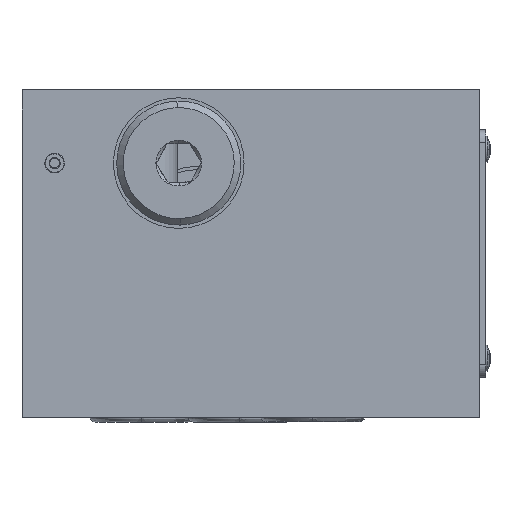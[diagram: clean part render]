
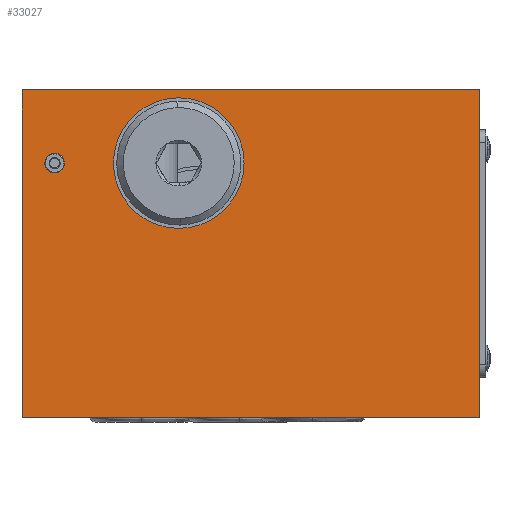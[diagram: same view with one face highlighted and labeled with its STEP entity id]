
A CAD part, left-side view. The second image highlights one B-rep face of the part: STEP entity #33027.
In plain terms, the highlighted planar face has unit normal (-1, 0, 0).
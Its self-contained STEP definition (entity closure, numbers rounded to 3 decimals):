
#93 = FACE_BOUND ( 'NONE', #14853, .T. ) ;
#2313 = DIRECTION ( 'NONE',  ( -1., 0., 0. ) ) ;
#3163 = DIRECTION ( 'NONE',  ( 0., 0., -1. ) ) ;
#3511 = ORIENTED_EDGE ( 'NONE', *, *, #22963, .F. ) ;
#6114 = ORIENTED_EDGE ( 'NONE', *, *, #53754, .T. ) ;
#6128 = EDGE_CURVE ( 'NONE', #33354, #35596, #41870, .T. ) ;
#6539 = DIRECTION ( 'NONE',  ( 0., 1., 0. ) ) ;
#7330 = CARTESIAN_POINT ( 'NONE',  ( -42.5, 23., 18.9 ) ) ;
#9509 = VECTOR ( 'NONE', #3163, 1000. ) ;
#9948 = PLANE ( 'NONE',  #36318 ) ;
#10133 = AXIS2_PLACEMENT_3D ( 'NONE', #13521, #17386, #22548 ) ;
#12749 = CARTESIAN_POINT ( 'NONE',  ( -42.5, -42., 28.6 ) ) ;
#13521 = CARTESIAN_POINT ( 'NONE',  ( -42.5, 23., 17.4 ) ) ;
#13771 = FACE_OUTER_BOUND ( 'NONE', #22228, .T. ) ;
#14471 = EDGE_CURVE ( 'NONE', #33215, #31039, #28952, .T. ) ;
#14853 = EDGE_LOOP ( 'NONE', ( #43971, #42836 ) ) ;
#15219 = FACE_BOUND ( 'NONE', #33749, .T. ) ;
#15768 = CARTESIAN_POINT ( 'NONE',  ( -42.5, 28., 28.6 ) ) ;
#16066 = VECTOR ( 'NONE', #17462, 1000. ) ;
#17041 = AXIS2_PLACEMENT_3D ( 'NONE', #36815, #41080, #27945 ) ;
#17386 = DIRECTION ( 'NONE',  ( -1., 0., 0. ) ) ;
#17419 = VECTOR ( 'NONE', #55978, 1000. ) ;
#17462 = DIRECTION ( 'NONE',  ( 0., 1., 0. ) ) ;
#17492 = DIRECTION ( 'NONE',  ( 0., 0., -1. ) ) ;
#20368 = LINE ( 'NONE', #21676, #28246 ) ;
#21676 = CARTESIAN_POINT ( 'NONE',  ( -42.5, 28., 28.6 ) ) ;
#22228 = EDGE_LOOP ( 'NONE', ( #6114, #25685, #3511, #24889 ) ) ;
#22548 = DIRECTION ( 'NONE',  ( 0., 0., 1. ) ) ;
#22963 = EDGE_CURVE ( 'NONE', #30989, #33354, #54835, .T. ) ;
#24108 = CARTESIAN_POINT ( 'NONE',  ( -42.5, 4., 17.4 ) ) ;
#24382 = VERTEX_POINT ( 'NONE', #58448 ) ;
#24696 = DIRECTION ( 'NONE',  ( 0., 0., -1. ) ) ;
#24889 = ORIENTED_EDGE ( 'NONE', *, *, #36440, .T. ) ;
#25685 = ORIENTED_EDGE ( 'NONE', *, *, #6128, .F. ) ;
#26468 = DIRECTION ( 'NONE',  ( 1., 0., 0. ) ) ;
#26535 = AXIS2_PLACEMENT_3D ( 'NONE', #49432, #26468, #49635 ) ;
#26835 = ORIENTED_EDGE ( 'NONE', *, *, #14471, .F. ) ;
#27945 = DIRECTION ( 'NONE',  ( 0., 0., 1. ) ) ;
#28246 = VECTOR ( 'NONE', #17492, 1000. ) ;
#28952 = CIRCLE ( 'NONE', #17041, 1.5 ) ;
#28976 = EDGE_CURVE ( 'NONE', #24382, #39363, #32081, .T. ) ;
#30989 = VERTEX_POINT ( 'NONE', #12749 ) ;
#31039 = VERTEX_POINT ( 'NONE', #45894 ) ;
#32081 = CIRCLE ( 'NONE', #53597, 10. ) ;
#32375 = ORIENTED_EDGE ( 'NONE', *, *, #47241, .F. ) ;
#32580 = CARTESIAN_POINT ( 'NONE',  ( -42.5, -42., -21.6 ) ) ;
#33027 = ADVANCED_FACE ( 'NONE', ( #93, #15219, #13771 ), #9948, .T. ) ;
#33215 = VERTEX_POINT ( 'NONE', #7330 ) ;
#33354 = VERTEX_POINT ( 'NONE', #32580 ) ;
#33749 = EDGE_LOOP ( 'NONE', ( #26835, #32375 ) ) ;
#33762 = CARTESIAN_POINT ( 'NONE',  ( -42.5, 4., 27.4 ) ) ;
#35596 = VERTEX_POINT ( 'NONE', #42489 ) ;
#36318 = AXIS2_PLACEMENT_3D ( 'NONE', #15768, #2313, #6539 ) ;
#36440 = EDGE_CURVE ( 'NONE', #30989, #57086, #57786, .T. ) ;
#36815 = CARTESIAN_POINT ( 'NONE',  ( -42.5, 23., 17.4 ) ) ;
#37638 = CARTESIAN_POINT ( 'NONE',  ( -42.5, 28., -21.6 ) ) ;
#38279 = CARTESIAN_POINT ( 'NONE',  ( -42.5, 28., 28.6 ) ) ;
#39363 = VERTEX_POINT ( 'NONE', #33762 ) ;
#40144 = CARTESIAN_POINT ( 'NONE',  ( -42.5, 28., 28.6 ) ) ;
#41080 = DIRECTION ( 'NONE',  ( -1., 0., 0. ) ) ;
#41870 = LINE ( 'NONE', #37638, #17419 ) ;
#42489 = CARTESIAN_POINT ( 'NONE',  ( -42.5, 28., -21.6 ) ) ;
#42836 = ORIENTED_EDGE ( 'NONE', *, *, #53692, .T. ) ;
#43122 = CIRCLE ( 'NONE', #10133, 1.5 ) ;
#43971 = ORIENTED_EDGE ( 'NONE', *, *, #28976, .T. ) ;
#45894 = CARTESIAN_POINT ( 'NONE',  ( -42.5, 23., 15.9 ) ) ;
#47241 = EDGE_CURVE ( 'NONE', #31039, #33215, #43122, .T. ) ;
#49432 = CARTESIAN_POINT ( 'NONE',  ( -42.5, 4., 17.4 ) ) ;
#49635 = DIRECTION ( 'NONE',  ( 0., 0., -1. ) ) ;
#52086 = DIRECTION ( 'NONE',  ( 1., 0., 0. ) ) ;
#53597 = AXIS2_PLACEMENT_3D ( 'NONE', #24108, #52086, #24696 ) ;
#53629 = CARTESIAN_POINT ( 'NONE',  ( -42.5, -42., 28.6 ) ) ;
#53692 = EDGE_CURVE ( 'NONE', #39363, #24382, #57131, .T. ) ;
#53754 = EDGE_CURVE ( 'NONE', #57086, #35596, #20368, .T. ) ;
#54835 = LINE ( 'NONE', #53629, #9509 ) ;
#55978 = DIRECTION ( 'NONE',  ( 0., 1., 0. ) ) ;
#57086 = VERTEX_POINT ( 'NONE', #38279 ) ;
#57131 = CIRCLE ( 'NONE', #26535, 10. ) ;
#57786 = LINE ( 'NONE', #40144, #16066 ) ;
#58448 = CARTESIAN_POINT ( 'NONE',  ( -42.5, 4., 7.4 ) ) ;
